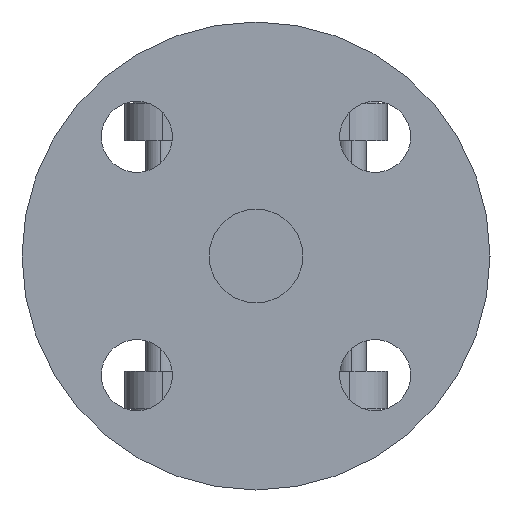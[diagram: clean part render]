
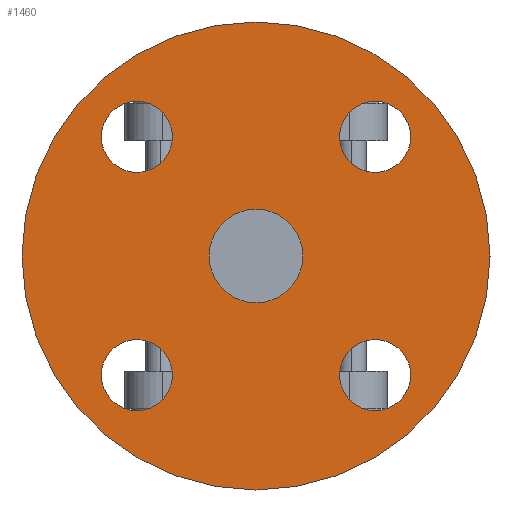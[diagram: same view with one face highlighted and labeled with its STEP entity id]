
A CAD part, left-side view. The second image highlights one B-rep face of the part: STEP entity #1460.
In plain terms, the highlighted planar face has unit normal (-1, 0, 0).
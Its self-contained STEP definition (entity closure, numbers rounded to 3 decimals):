
#17 = ORIENTED_EDGE ( 'NONE', *, *, #4290, .T. ) ;
#52 = CIRCLE ( 'NONE', #1356, 9.5 ) ;
#53 = EDGE_LOOP ( 'NONE', ( #5493, #17 ) ) ;
#112 = ORIENTED_EDGE ( 'NONE', *, *, #5973, .F. ) ;
#193 = EDGE_CURVE ( 'NONE', #3794, #1909, #2579, .T. ) ;
#227 = CARTESIAN_POINT ( 'NONE',  ( -75., 31.82, -31.82 ) ) ;
#260 = DIRECTION ( 'NONE',  ( -1., 0., 0. ) ) ;
#271 = ORIENTED_EDGE ( 'NONE', *, *, #4092, .F. ) ;
#304 = ORIENTED_EDGE ( 'NONE', *, *, #193, .F. ) ;
#433 = CARTESIAN_POINT ( 'NONE',  ( -75., 0., 0. ) ) ;
#513 = DIRECTION ( 'NONE',  ( 0., -1., 0. ) ) ;
#530 = ORIENTED_EDGE ( 'NONE', *, *, #3829, .F. ) ;
#730 = AXIS2_PLACEMENT_3D ( 'NONE', #6053, #2356, #4251 ) ;
#787 = CARTESIAN_POINT ( 'NONE',  ( -75., 12.5, 0. ) ) ;
#824 = CIRCLE ( 'NONE', #2332, 12.5 ) ;
#870 = DIRECTION ( 'NONE',  ( 0., -1., 0. ) ) ;
#893 = CARTESIAN_POINT ( 'NONE',  ( -75., -12.5, 0. ) ) ;
#1029 = VERTEX_POINT ( 'NONE', #787 ) ;
#1097 = DIRECTION ( 'NONE',  ( 0., 0., 1. ) ) ;
#1158 = EDGE_CURVE ( 'NONE', #2275, #1029, #3421, .T. ) ;
#1192 = PLANE ( 'NONE',  #2916 ) ;
#1194 = EDGE_CURVE ( 'NONE', #1360, #3957, #3511, .T. ) ;
#1301 = ORIENTED_EDGE ( 'NONE', *, *, #5037, .F. ) ;
#1343 = VERTEX_POINT ( 'NONE', #3898 ) ;
#1351 = AXIS2_PLACEMENT_3D ( 'NONE', #4238, #3610, #5512 ) ;
#1356 = AXIS2_PLACEMENT_3D ( 'NONE', #227, #260, #3661 ) ;
#1360 = VERTEX_POINT ( 'NONE', #1916 ) ;
#1378 = AXIS2_PLACEMENT_3D ( 'NONE', #3293, #2861, #3754 ) ;
#1460 = ADVANCED_FACE ( 'NONE', ( #5869, #3495, #2132, #1659, #2622, #5397 ), #1192, .F. ) ;
#1571 = EDGE_LOOP ( 'NONE', ( #304, #4106 ) ) ;
#1579 = AXIS2_PLACEMENT_3D ( 'NONE', #2398, #1926, #513 ) ;
#1633 = CARTESIAN_POINT ( 'NONE',  ( -75., -31.82, -31.82 ) ) ;
#1659 = FACE_BOUND ( 'NONE', #3243, .T. ) ;
#1675 = CARTESIAN_POINT ( 'NONE',  ( -75., -31.82, 31.82 ) ) ;
#1694 = VERTEX_POINT ( 'NONE', #2496 ) ;
#1724 = DIRECTION ( 'NONE',  ( -1., 0., 0. ) ) ;
#1765 = VERTEX_POINT ( 'NONE', #3923 ) ;
#1786 = CARTESIAN_POINT ( 'NONE',  ( -75., 0., 0. ) ) ;
#1854 = VERTEX_POINT ( 'NONE', #5423 ) ;
#1909 = VERTEX_POINT ( 'NONE', #5357 ) ;
#1916 = CARTESIAN_POINT ( 'NONE',  ( -75., 22.32, -31.82 ) ) ;
#1926 = DIRECTION ( 'NONE',  ( -1., 0., 0. ) ) ;
#1978 = AXIS2_PLACEMENT_3D ( 'NONE', #1675, #2263, #5473 ) ;
#1995 = VERTEX_POINT ( 'NONE', #5509 ) ;
#2020 = EDGE_CURVE ( 'NONE', #4863, #1765, #3969, .T. ) ;
#2046 = DIRECTION ( 'NONE',  ( -1., 0., 0. ) ) ;
#2060 = ORIENTED_EDGE ( 'NONE', *, *, #1158, .F. ) ;
#2132 = FACE_BOUND ( 'NONE', #2901, .T. ) ;
#2189 = CARTESIAN_POINT ( 'NONE',  ( -75., -22.32, 31.82 ) ) ;
#2261 = CARTESIAN_POINT ( 'NONE',  ( -75., -41.32, -31.82 ) ) ;
#2263 = DIRECTION ( 'NONE',  ( -1., 0., 0. ) ) ;
#2275 = VERTEX_POINT ( 'NONE', #893 ) ;
#2321 = DIRECTION ( 'NONE',  ( 0., -1., 0. ) ) ;
#2332 = AXIS2_PLACEMENT_3D ( 'NONE', #433, #3774, #870 ) ;
#2356 = DIRECTION ( 'NONE',  ( -1., 0., 0. ) ) ;
#2398 = CARTESIAN_POINT ( 'NONE',  ( -75., 0., 0. ) ) ;
#2496 = CARTESIAN_POINT ( 'NONE',  ( -75., 22.32, 31.82 ) ) ;
#2541 = DIRECTION ( 'NONE',  ( -1., 0., 0. ) ) ;
#2579 = CIRCLE ( 'NONE', #4165, 9.5 ) ;
#2617 = EDGE_LOOP ( 'NONE', ( #2060, #1301 ) ) ;
#2622 = FACE_BOUND ( 'NONE', #2617, .T. ) ;
#2675 = AXIS2_PLACEMENT_3D ( 'NONE', #4632, #5540, #5641 ) ;
#2861 = DIRECTION ( 'NONE',  ( -1., 0., 0. ) ) ;
#2901 = EDGE_LOOP ( 'NONE', ( #530, #112 ) ) ;
#2916 = AXIS2_PLACEMENT_3D ( 'NONE', #3990, #5984, #4988 ) ;
#3063 = CIRCLE ( 'NONE', #4056, 9.5 ) ;
#3220 = ORIENTED_EDGE ( 'NONE', *, *, #1194, .F. ) ;
#3243 = EDGE_LOOP ( 'NONE', ( #3220, #6171 ) ) ;
#3293 = CARTESIAN_POINT ( 'NONE',  ( -75., 31.82, 31.82 ) ) ;
#3379 = ORIENTED_EDGE ( 'NONE', *, *, #2020, .F. ) ;
#3385 = CARTESIAN_POINT ( 'NONE',  ( -75., -31.82, -31.82 ) ) ;
#3421 = CIRCLE ( 'NONE', #5406, 12.5 ) ;
#3495 = FACE_BOUND ( 'NONE', #5175, .T. ) ;
#3511 = CIRCLE ( 'NONE', #730, 9.5 ) ;
#3539 = EDGE_CURVE ( 'NONE', #1343, #1995, #4035, .T. ) ;
#3569 = AXIS2_PLACEMENT_3D ( 'NONE', #3385, #2046, #4372 ) ;
#3610 = DIRECTION ( 'NONE',  ( -1., 0., 0. ) ) ;
#3661 = DIRECTION ( 'NONE',  ( 0., -1., 0. ) ) ;
#3754 = DIRECTION ( 'NONE',  ( 0., 0., -1. ) ) ;
#3774 = DIRECTION ( 'NONE',  ( -1., 0., 0. ) ) ;
#3775 = EDGE_CURVE ( 'NONE', #3957, #1360, #52, .T. ) ;
#3794 = VERTEX_POINT ( 'NONE', #2261 ) ;
#3829 = EDGE_CURVE ( 'NONE', #1694, #1854, #6049, .T. ) ;
#3898 = CARTESIAN_POINT ( 'NONE',  ( -75., -62.5, 0. ) ) ;
#3923 = CARTESIAN_POINT ( 'NONE',  ( -75., -41.32, 31.82 ) ) ;
#3957 = VERTEX_POINT ( 'NONE', #5312 ) ;
#3969 = CIRCLE ( 'NONE', #2675, 9.5 ) ;
#3990 = CARTESIAN_POINT ( 'NONE',  ( -75., 0., 0. ) ) ;
#3998 = DIRECTION ( 'NONE',  ( 0., 0., -1. ) ) ;
#4003 = EDGE_CURVE ( 'NONE', #1909, #3794, #4960, .T. ) ;
#4035 = CIRCLE ( 'NONE', #1351, 62.5 ) ;
#4056 = AXIS2_PLACEMENT_3D ( 'NONE', #5992, #1724, #3998 ) ;
#4092 = EDGE_CURVE ( 'NONE', #1765, #4863, #5757, .T. ) ;
#4106 = ORIENTED_EDGE ( 'NONE', *, *, #4003, .F. ) ;
#4165 = AXIS2_PLACEMENT_3D ( 'NONE', #1633, #2541, #1097 ) ;
#4238 = CARTESIAN_POINT ( 'NONE',  ( -75., 0., 0. ) ) ;
#4251 = DIRECTION ( 'NONE',  ( 0., -1., 0. ) ) ;
#4290 = EDGE_CURVE ( 'NONE', #1995, #1343, #5562, .T. ) ;
#4372 = DIRECTION ( 'NONE',  ( 0., 0., 1. ) ) ;
#4632 = CARTESIAN_POINT ( 'NONE',  ( -75., -31.82, 31.82 ) ) ;
#4863 = VERTEX_POINT ( 'NONE', #2189 ) ;
#4960 = CIRCLE ( 'NONE', #3569, 9.5 ) ;
#4988 = DIRECTION ( 'NONE',  ( 0., 1., 0. ) ) ;
#5037 = EDGE_CURVE ( 'NONE', #1029, #2275, #824, .T. ) ;
#5083 = DIRECTION ( 'NONE',  ( -1., 0., 0. ) ) ;
#5175 = EDGE_LOOP ( 'NONE', ( #271, #3379 ) ) ;
#5312 = CARTESIAN_POINT ( 'NONE',  ( -75., 41.32, -31.82 ) ) ;
#5357 = CARTESIAN_POINT ( 'NONE',  ( -75., -22.32, -31.82 ) ) ;
#5397 = FACE_OUTER_BOUND ( 'NONE', #53, .T. ) ;
#5406 = AXIS2_PLACEMENT_3D ( 'NONE', #1786, #5083, #2321 ) ;
#5423 = CARTESIAN_POINT ( 'NONE',  ( -75., 41.32, 31.82 ) ) ;
#5473 = DIRECTION ( 'NONE',  ( 0., 1., 0. ) ) ;
#5493 = ORIENTED_EDGE ( 'NONE', *, *, #3539, .T. ) ;
#5509 = CARTESIAN_POINT ( 'NONE',  ( -75., 62.5, 0. ) ) ;
#5512 = DIRECTION ( 'NONE',  ( 0., -1., 0. ) ) ;
#5540 = DIRECTION ( 'NONE',  ( -1., 0., 0. ) ) ;
#5562 = CIRCLE ( 'NONE', #1579, 62.5 ) ;
#5641 = DIRECTION ( 'NONE',  ( 0., 1., 0. ) ) ;
#5757 = CIRCLE ( 'NONE', #1978, 9.5 ) ;
#5869 = FACE_BOUND ( 'NONE', #1571, .T. ) ;
#5973 = EDGE_CURVE ( 'NONE', #1854, #1694, #3063, .T. ) ;
#5984 = DIRECTION ( 'NONE',  ( 1., 0., 0. ) ) ;
#5992 = CARTESIAN_POINT ( 'NONE',  ( -75., 31.82, 31.82 ) ) ;
#6049 = CIRCLE ( 'NONE', #1378, 9.5 ) ;
#6053 = CARTESIAN_POINT ( 'NONE',  ( -75., 31.82, -31.82 ) ) ;
#6171 = ORIENTED_EDGE ( 'NONE', *, *, #3775, .F. ) ;
